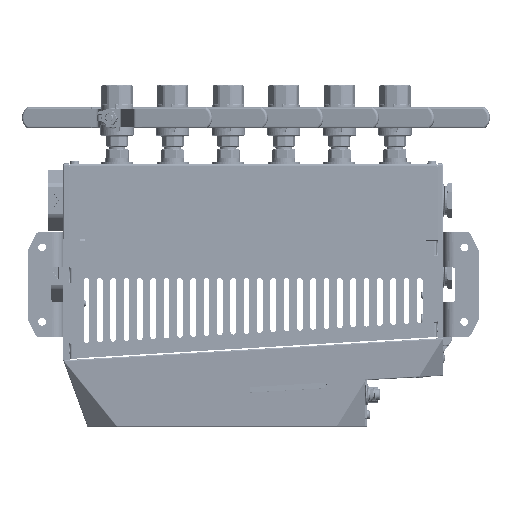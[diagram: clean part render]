
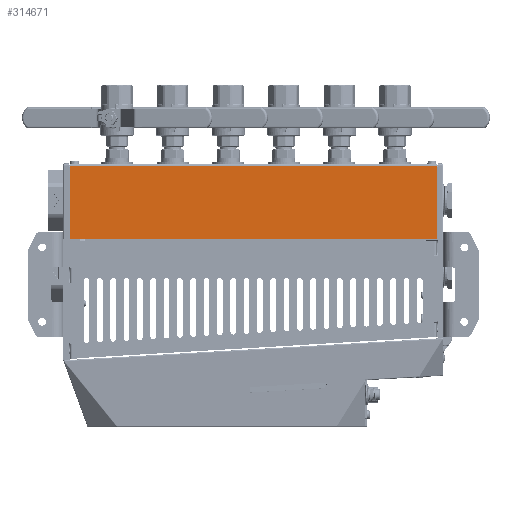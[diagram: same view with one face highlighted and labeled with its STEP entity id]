
A CAD part, left-side view. The second image highlights one B-rep face of the part: STEP entity #314671.
In plain terms, the highlighted planar face has unit normal (-1, 0, 0) as drawn and (0, -1, 0) by its records, which use the part's own axes.
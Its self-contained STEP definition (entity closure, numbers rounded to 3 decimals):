
#16309 = VECTOR ( 'NONE', #296318, 1000. ) ;
#18247 = CARTESIAN_POINT ( 'NONE',  ( 0., -84., 165. ) ) ;
#24599 = LINE ( 'NONE', #228044, #16309 ) ;
#37514 = DIRECTION ( 'NONE',  ( 0., 0., -1. ) ) ;
#37669 = ORIENTED_EDGE ( 'NONE', *, *, #63618, .T. ) ;
#38067 = ORIENTED_EDGE ( 'NONE', *, *, #284437, .F. ) ;
#49788 = AXIS2_PLACEMENT_3D ( 'NONE', #345352, #82911, #117455 ) ;
#63618 = EDGE_CURVE ( 'NONE', #300848, #107678, #367955, .T. ) ;
#68301 = FACE_OUTER_BOUND ( 'NONE', #73611, .T. ) ;
#73611 = EDGE_LOOP ( 'NONE', ( #189263, #277697, #162260, #38067, #131388, #37669 ) ) ;
#82911 = DIRECTION ( 'NONE',  ( 0., -1., 0. ) ) ;
#84447 = CARTESIAN_POINT ( 'NONE',  ( -68., -84., 165. ) ) ;
#86747 = LINE ( 'NONE', #232409, #137282 ) ;
#107678 = VERTEX_POINT ( 'NONE', #296407 ) ;
#108820 = DIRECTION ( 'NONE',  ( 1., 0., 0. ) ) ;
#110569 = DIRECTION ( 'NONE',  ( 1., 0., 0. ) ) ;
#112613 = CARTESIAN_POINT ( 'NONE',  ( -67., -84., -165. ) ) ;
#115932 = VECTOR ( 'NONE', #359004, 1000. ) ;
#117455 = DIRECTION ( 'NONE',  ( 1., 0., 0. ) ) ;
#119927 = CARTESIAN_POINT ( 'NONE',  ( -2., -84., 165. ) ) ;
#131388 = ORIENTED_EDGE ( 'NONE', *, *, #252078, .T. ) ;
#137282 = VECTOR ( 'NONE', #172962, 1000. ) ;
#146008 = CIRCLE ( 'NONE', #280398, 1. ) ;
#162260 = ORIENTED_EDGE ( 'NONE', *, *, #240252, .F. ) ;
#172962 = DIRECTION ( 'NONE',  ( -1., 0., 0. ) ) ;
#173673 = VERTEX_POINT ( 'NONE', #180001 ) ;
#180001 = CARTESIAN_POINT ( 'NONE',  ( -68., -84., -164. ) ) ;
#189263 = ORIENTED_EDGE ( 'NONE', *, *, #249713, .T. ) ;
#212914 = CARTESIAN_POINT ( 'NONE',  ( -67., -84., 165. ) ) ;
#216551 = VECTOR ( 'NONE', #37514, 1000. ) ;
#228044 = CARTESIAN_POINT ( 'NONE',  ( 0., -84., 165. ) ) ;
#230127 = LINE ( 'NONE', #84447, #216551 ) ;
#232409 = CARTESIAN_POINT ( 'NONE',  ( 0., -84., -165. ) ) ;
#239791 = CARTESIAN_POINT ( 'NONE',  ( -2., -84., 165. ) ) ;
#240252 = EDGE_CURVE ( 'NONE', #361207, #320621, #86747, .T. ) ;
#242330 = LINE ( 'NONE', #119927, #115932 ) ;
#249713 = EDGE_CURVE ( 'NONE', #107678, #173673, #230127, .T. ) ;
#252078 = EDGE_CURVE ( 'NONE', #300705, #300848, #24599, .T. ) ;
#256222 = CARTESIAN_POINT ( 'NONE',  ( -67., -84., -164. ) ) ;
#260870 = EDGE_CURVE ( 'NONE', #173673, #320621, #146008, .T. ) ;
#273466 = PLANE ( 'NONE',  #335033 ) ;
#277099 = CARTESIAN_POINT ( 'NONE',  ( -2., -84., -165. ) ) ;
#277697 = ORIENTED_EDGE ( 'NONE', *, *, #260870, .T. ) ;
#280398 = AXIS2_PLACEMENT_3D ( 'NONE', #256222, #284949, #108820 ) ;
#284437 = EDGE_CURVE ( 'NONE', #300705, #361207, #242330, .T. ) ;
#284949 = DIRECTION ( 'NONE',  ( 0., -1., 0. ) ) ;
#296318 = DIRECTION ( 'NONE',  ( -1., 0., 0. ) ) ;
#296407 = CARTESIAN_POINT ( 'NONE',  ( -68., -84., 164. ) ) ;
#300705 = VERTEX_POINT ( 'NONE', #239791 ) ;
#300848 = VERTEX_POINT ( 'NONE', #212914 ) ;
#314671 = ADVANCED_FACE ( 'NONE', ( #68301 ), #273466, .T. ) ;
#317333 = DIRECTION ( 'NONE',  ( 0., -1., 0. ) ) ;
#320621 = VERTEX_POINT ( 'NONE', #112613 ) ;
#335033 = AXIS2_PLACEMENT_3D ( 'NONE', #18247, #317333, #110569 ) ;
#345352 = CARTESIAN_POINT ( 'NONE',  ( -67., -84., 164. ) ) ;
#359004 = DIRECTION ( 'NONE',  ( 0., 0., -1. ) ) ;
#361207 = VERTEX_POINT ( 'NONE', #277099 ) ;
#367955 = CIRCLE ( 'NONE', #49788, 1. ) ;
